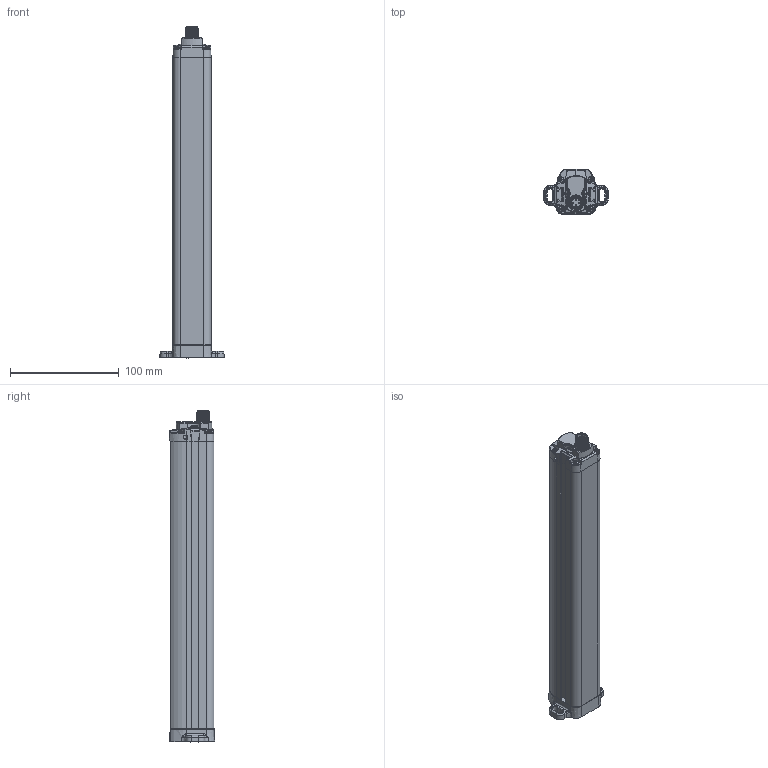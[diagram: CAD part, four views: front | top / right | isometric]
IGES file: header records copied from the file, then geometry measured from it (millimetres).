
Global section: file name: C:\Users\lrossetti\Desktop\Nuova cartella\DSD-0587.igs; native system: NX V7.5; preprocessor: SIEMENS PLM Software NX 7.5; date: 20131001.092912; units: millimetre
Bounding box: 59 x 41.56 x 304.9 mm (x, y, z)
Surface area: 55302.2 mm2 (no closed solid volume)
Topology: 0 solids, 0 shells, 900 faces, 5153 edges, 5091 vertices
Faces by surface type: bspline 900
